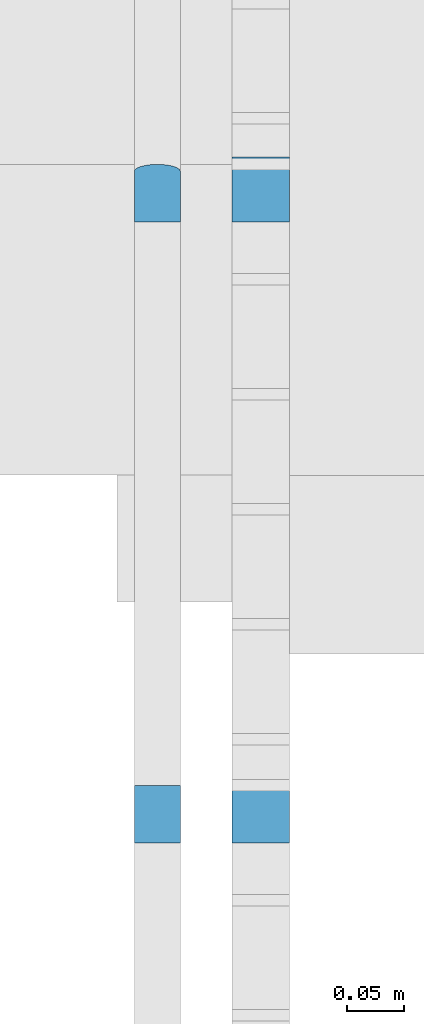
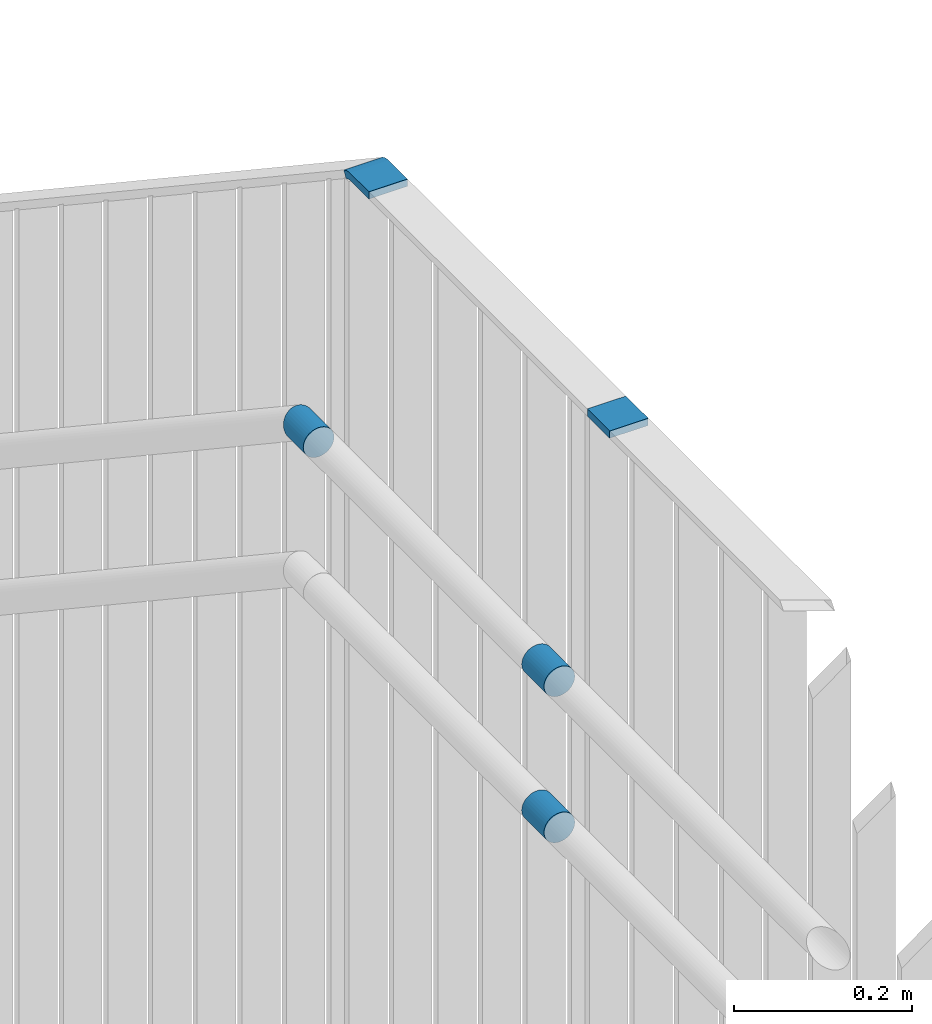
# One storey, part 87 of 418: 5 members, 1 element without a shape of its own.
"""IFC2X3 building model written with IfcOpenShell, lengths in millimetres."""

from ifc_helpers import new_model, entity, si_unit, converted_unit, derived_unit, money_unit, direction, frame, origin_with_axes, place, context, subcontext, project, spatial, faceted_brep, material, type_object, element, aggregate, save


model = new_model("IFC2X3")

# Units and contexts
model_context = context("Model", 3, precision=0.01, world=origin_with_axes(), true_north=direction((0.0, 1.0)))
body_context = subcontext(model_context, "Body", "Model", "MODEL_VIEW")
ifc_project = project(units=[si_unit("LENGTHUNIT", "METRE", prefix="MILLI"), si_unit("AREAUNIT", "SQUARE_METRE"), si_unit("VOLUMEUNIT", "CUBIC_METRE"), converted_unit("PLANEANGLEUNIT", "DEGREE", entity("IfcPlaneAngleMeasure", 0.0174532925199), si_unit("PLANEANGLEUNIT", "RADIAN"), dimensions=[0, 0, 0, 0, 0, 0, 0]), si_unit("SOLIDANGLEUNIT", "STERADIAN"), money_unit("EUR"), converted_unit("TIMEUNIT", "Year", entity("IfcTimeMeasure", 31556926.0), si_unit("TIMEUNIT", "SECOND"), dimensions=[0, 0, 1, 0, 0, 0, 0]), si_unit("MASSUNIT", "GRAM", prefix="KILO"), si_unit("THERMODYNAMICTEMPERATUREUNIT", "DEGREE_CELSIUS"), si_unit("LUMINOUSINTENSITYUNIT", "LUMEN"), si_unit("ENERGYUNIT", "JOULE", prefix="MEGA"), derived_unit("THERMALCONDUCTANCEUNIT", [(si_unit("POWERUNIT", "WATT"), 1), (si_unit("LENGTHUNIT", "METRE"), -1), (si_unit("THERMODYNAMICTEMPERATUREUNIT", "KELVIN"), -1)]), derived_unit("SPECIFICHEATCAPACITYUNIT", [(si_unit("ENERGYUNIT", "JOULE"), 1), (si_unit("MASSUNIT", "GRAM", prefix="KILO"), -1), (si_unit("THERMODYNAMICTEMPERATUREUNIT", "KELVIN"), -1)]), derived_unit("MASSDENSITYUNIT", [(si_unit("MASSUNIT", "GRAM", prefix="KILO"), 1), (si_unit("VOLUMEUNIT", "CUBIC_METRE"), -1)])], contexts=[model_context])

# Site, building, storey
site_placement = place(None, origin_with_axes())
site = spatial("IfcSite", under=ifc_project, at=site_placement, Name="Paldiski mnt 245/1, Tallinn, Harjumaa", CompositionType="COMPLEX")
building_placement = place(site_placement, origin_with_axes())
building = spatial("IfcBuilding", under=site, at=building_placement, Name="RKAS Hoone üldnimetus (kasutust iseloomustav) -> IFC Project Manager -> SOLIBRI", CompositionType="ELEMENT")
storey_placement = place(building_placement, origin_with_axes())
storey = spatial("IfcBuildingStorey", under=building, at=storey_placement, Name="Esimene korrus", CompositionType="ELEMENT", Elevation=0.0)

# Railing, members
railing_type = type_object("IfcRailingType", Name="Railing Type", PredefinedType="NOTDEFINED")
railing_placement = place(storey_placement, frame((-13938.0000282, 1623.82640275, -670.434782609), z_axis=(0.0, 0.0, 1.0), x_axis=(0.773149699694, 0.634223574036, 0.0)))
railing = element("IfcRailing", 1, at=railing_placement, inside=storey, type_object=railing_type, Name="Trepipiire", PredefinedType="NOTDEFINED")
ifc_material_1 = material(Name="ET-07_Teras - Roostevaba")
member_type = type_object("IfcMemberType", Name="IfcMember", PredefinedType="USERDEFINED")
member_1_placement = place(railing_placement, frame((0.0, 0.0, 0.0), z_axis=(0.0, 0.0, 1.0), x_axis=(0.773149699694, -0.634223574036, 0.0)))
member_1 = element("IfcMember", 2, at=member_1_placement, type_object=member_type, material=ifc_material_1, ObjectType="Rail", context=body_context, shape_type="Brep", body=[
    faceted_brep([(-84.6961550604, -5751.94429311, 4826.96181906), (-85.0000000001, -5751.94429311, 4830.43478261), (-85.0000000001, -5707.98762861, 4830.43478261), (-84.6961550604, -5709.0370428, 4826.96181906), (-84.6961550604, -5751.94429311, 4833.90774616), (-83.7938524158, -5751.94429311, 4823.59437974), (-82.3205080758, -5751.94429311, 4820.43478261), (-80.3208888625, -5751.94429311, 4817.57903041), (-77.8557521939, -5751.94429311, 4815.11389375), (-75.0000000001, -5751.94429311, 4813.11427453), (-71.8404028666, -5751.94429311, 4811.64093019), (-68.4729635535, -5751.94429311, 4810.73862755), (-65.0000000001, -5751.94429311, 4810.43478261), (-61.5270364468, -5751.94429311, 4810.73862755), (-58.1595971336, -5751.94429311, 4811.64093019), (-55.0000000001, -5751.94429311, 4813.11427453), (-52.1442478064, -5751.94429311, 4815.11389375), (-49.6791111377, -5751.94429311, 4817.57903041), (-47.6794919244, -5751.94429311, 4820.43478261), (-46.2061475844, -5751.94429311, 4823.59437974), (-45.3038449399, -5751.94429311, 4826.96181906), (-45.0000000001, -5751.94429311, 4830.43478261), (-45.3038449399, -5751.94429311, 4833.90774616), (-46.2061475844, -5751.94429311, 4837.27518548), (-47.6794919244, -5751.94429311, 4840.43478261), (-49.6791111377, -5751.94429311, 4843.2905348), (-52.1442478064, -5751.94429311, 4845.75567147), (-55.0000000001, -5751.94429311, 4847.75529068), (-58.1595971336, -5751.94429311, 4849.22863502), (-61.5270364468, -5751.94429311, 4850.13093767), (-65.0000000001, -5751.94429311, 4850.43478261), (-68.4729635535, -5751.94429311, 4850.13093767), (-71.8404028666, -5751.94429311, 4849.22863502), (-75.0000000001, -5751.94429311, 4847.75529068), (-77.8557521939, -5751.94429311, 4845.75567147), (-80.3208888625, -5751.94429311, 4843.2905348), (-82.3205080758, -5751.94429311, 4840.43478261), (-83.7938524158, -5751.94429311, 4837.27518548), (-84.6961550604, -5706.93821441, 4833.90774616), (-47.6794919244, -5704.96596086, 4840.43478261), (-46.2061475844, -5705.92068614, 4837.27518548), (-45.3038449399, -5706.93821441, 4833.90774616), (-45.0000000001, -5707.98762861, 4830.43478261), (-45.3038449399, -5709.0370428, 4826.96181906), (-46.2061475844, -5710.05457108, 4823.59437974), (-47.6794919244, -5711.00929636, 4820.43478261), (-49.6791111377, -5711.87220979, 4817.57903041), (-52.1442478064, -5712.61709218, 4815.11389375), (-55.0000000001, -5713.22131067, 4813.11427453), (-58.1595971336, -5713.66650638, 4811.64093019), (-61.5270364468, -5713.93915226, 4810.73862755), (-65.0000000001, -5714.0309641, 4810.43478261), (-68.4729635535, -5713.93915226, 4810.73862755), (-71.8404028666, -5713.66650638, 4811.64093019), (-75.0000000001, -5713.22131067, 4813.11427453), (-77.8557521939, -5712.61709218, 4815.11389375), (-80.3208888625, -5711.87220979, 4817.57903041), (-82.3205080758, -5711.00929636, 4820.43478261), (-83.7938524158, -5710.05457108, 4823.59437974), (-83.7938524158, -5705.92068614, 4837.27518548), (-82.3205080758, -5704.96596086, 4840.43478261), (-80.3208888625, -5704.10304743, 4843.2905348), (-77.8557521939, -5703.35816504, 4845.75567147), (-75.0000000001, -5702.75394655, 4847.75529068), (-71.8404028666, -5702.30875084, 4849.22863502), (-68.4729635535, -5702.03610496, 4850.13093767), (-65.0000000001, -5701.94429311, 4850.43478261), (-61.5270364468, -5702.03610496, 4850.13093767), (-58.1595971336, -5702.30875084, 4849.22863502), (-55.0000000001, -5702.75394655, 4847.75529068), (-52.1442478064, -5703.35816504, 4845.75567147), (-49.6791111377, -5704.10304743, 4843.2905348)], [[[0, 1, 2, 3]], [[4, 1, 0, 5, 6, 7, 8, 9, 10, 11, 12, 13, 14, 15, 16, 17, 18, 19, 20, 21, 22, 23, 24, 25, 26, 27, 28, 29, 30, 31, 32, 33, 34, 35, 36, 37]], [[1, 4, 38, 2]], [[39, 40, 41, 42, 43, 44, 45, 46, 47, 48, 49, 50, 51, 52, 53, 54, 55, 56, 57, 58, 3, 2, 38, 59, 60, 61, 62, 63, 64, 65, 66, 67, 68, 69, 70, 71]], [[5, 0, 3, 58]], [[6, 5, 58, 57]], [[7, 6, 57, 56]], [[8, 7, 56, 55]], [[9, 8, 55, 54]], [[10, 9, 54, 53]], [[11, 10, 53, 52]], [[12, 11, 52, 51]], [[13, 12, 51, 50]], [[14, 13, 50, 49]], [[15, 14, 49, 48]], [[16, 15, 48, 47]], [[17, 16, 47, 46]], [[18, 17, 46, 45]], [[19, 18, 45, 44]], [[20, 19, 44, 43]], [[21, 20, 43, 42]], [[22, 21, 42, 41]], [[23, 22, 41, 40]], [[24, 23, 40, 39]], [[25, 24, 39, 71]], [[26, 25, 71, 70]], [[27, 26, 70, 69]], [[28, 27, 69, 68]], [[29, 28, 68, 67]], [[30, 29, 67, 66]], [[31, 30, 66, 65]], [[32, 31, 65, 64]], [[33, 32, 64, 63]], [[34, 33, 63, 62]], [[35, 34, 62, 61]], [[36, 35, 61, 60]], [[37, 36, 60, 59]], [[4, 37, 59, 38]]]),
])
ifc_material_2 = material(Name="RAL7016")
member_2_placement = place(railing_placement, frame((0.0, 0.0, 0.0), z_axis=(0.0, 0.0, 1.0), x_axis=(0.773149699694, -0.634223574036, 0.0)))
member_2 = element("IfcMember", 3, at=member_2_placement, type_object=member_type, material=ifc_material_2, ObjectType="Rail", context=body_context, shape_type="Brep", body=[
    faceted_brep([(-1.22568621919e-10, -5751.94429311, 5140.43478261), (-1.22568621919e-10, -5751.94429311, 5150.43478261), (-1.22568621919e-10, -5709.49846248, 5150.43478261), (-1.22568621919e-10, -5702.26720721, 5149.36612079), (-1.22568621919e-10, -5695.65417325, 5146.25149838), (-1.22568621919e-10, -5700.57993781, 5137.51783008), (-1.22568621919e-10, -5705.19112488, 5139.68961789), (-1.22568621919e-10, -5710.23339006, 5140.43478261), (49.9999999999, -5751.94429311, 5150.43478261), (49.9999999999, -5751.94429311, 5140.43478261), (49.9999999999, -5709.49846248, 5150.43478261), (49.9999999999, -5702.26720721, 5149.36612079), (49.9999999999, -5695.65417325, 5146.25149838), (49.9999999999, -5700.57993781, 5137.51783008), (49.9999999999, -5705.19112488, 5139.68961789), (49.9999999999, -5710.23339006, 5140.43478261)], [[[0, 1, 2, 3, 4, 5, 6, 7]], [[8, 1, 0, 9]], [[1, 8, 10, 2]], [[3, 2, 10, 11]], [[4, 3, 11, 12]], [[12, 13, 5, 4]], [[13, 14, 6, 5]], [[14, 15, 7, 6]], [[9, 0, 7, 15]], [[8, 9, 15, 14, 13, 12, 11, 10]]]),
])
member_3_placement = place(railing_placement, frame((0.0, 0.0, 0.0), z_axis=(0.0, 0.0, 1.0), x_axis=(0.773149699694, -0.634223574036, 0.0)))
member_3 = element("IfcMember", 4, at=member_3_placement, type_object=member_type, material=ifc_material_1, ObjectType="Rail", context=body_context, shape_type="Brep", body=[
    faceted_brep([(-84.6961550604, -6291.94429311, 4626.96181906), (-85.0000000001, -6291.94429311, 4630.43478261), (-85.0000000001, -6241.94429311, 4630.43478261), (-84.6961550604, -6241.94429311, 4626.96181906), (-84.6961550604, -6291.94429311, 4633.90774616), (-83.7938524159, -6291.94429311, 4623.59437974), (-82.3205080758, -6291.94429311, 4620.43478261), (-80.3208888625, -6291.94429311, 4617.57903041), (-77.8557521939, -6291.94429311, 4615.11389375), (-75.0000000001, -6291.94429311, 4613.11427453), (-71.8404028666, -6291.94429311, 4611.64093019), (-68.4729635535, -6291.94429311, 4610.73862755), (-65.0000000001, -6291.94429311, 4610.43478261), (-61.5270364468, -6291.94429311, 4610.73862755), (-58.1595971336, -6291.94429311, 4611.64093019), (-55.0000000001, -6291.94429311, 4613.11427453), (-52.1442478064, -6291.94429311, 4615.11389375), (-49.6791111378, -6291.94429311, 4617.57903041), (-47.6794919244, -6291.94429311, 4620.43478261), (-46.2061475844, -6291.94429311, 4623.59437974), (-45.3038449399, -6291.94429311, 4626.96181906), (-45.0000000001, -6291.94429311, 4630.43478261), (-45.3038449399, -6291.94429311, 4633.90774616), (-46.2061475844, -6291.94429311, 4637.27518548), (-47.6794919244, -6291.94429311, 4640.43478261), (-49.6791111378, -6291.94429311, 4643.2905348), (-52.1442478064, -6291.94429311, 4645.75567147), (-55.0000000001, -6291.94429311, 4647.75529068), (-58.1595971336, -6291.94429311, 4649.22863502), (-61.5270364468, -6291.94429311, 4650.13093767), (-65.0000000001, -6291.94429311, 4650.43478261), (-68.4729635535, -6291.94429311, 4650.13093767), (-71.8404028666, -6291.94429311, 4649.22863502), (-75.0000000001, -6291.94429311, 4647.75529068), (-77.8557521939, -6291.94429311, 4645.75567147), (-80.3208888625, -6291.94429311, 4643.2905348), (-82.3205080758, -6291.94429311, 4640.43478261), (-83.7938524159, -6291.94429311, 4637.27518548), (-84.6961550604, -6241.94429311, 4633.90774616), (-47.6794919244, -6241.94429311, 4640.43478261), (-46.2061475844, -6241.94429311, 4637.27518548), (-45.3038449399, -6241.94429311, 4633.90774616), (-45.0000000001, -6241.94429311, 4630.43478261), (-45.3038449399, -6241.94429311, 4626.96181906), (-46.2061475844, -6241.94429311, 4623.59437974), (-47.6794919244, -6241.94429311, 4620.43478261), (-49.6791111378, -6241.94429311, 4617.57903041), (-52.1442478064, -6241.94429311, 4615.11389375), (-55.0000000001, -6241.94429311, 4613.11427453), (-58.1595971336, -6241.94429311, 4611.64093019), (-61.5270364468, -6241.94429311, 4610.73862755), (-65.0000000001, -6241.94429311, 4610.43478261), (-68.4729635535, -6241.94429311, 4610.73862755), (-71.8404028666, -6241.94429311, 4611.64093019), (-75.0000000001, -6241.94429311, 4613.11427453), (-77.8557521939, -6241.94429311, 4615.11389375), (-80.3208888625, -6241.94429311, 4617.57903041), (-82.3205080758, -6241.94429311, 4620.43478261), (-83.7938524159, -6241.94429311, 4623.59437974), (-83.7938524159, -6241.94429311, 4637.27518548), (-82.3205080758, -6241.94429311, 4640.43478261), (-80.3208888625, -6241.94429311, 4643.2905348), (-77.8557521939, -6241.94429311, 4645.75567147), (-75.0000000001, -6241.94429311, 4647.75529068), (-71.8404028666, -6241.94429311, 4649.22863502), (-68.4729635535, -6241.94429311, 4650.13093767), (-65.0000000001, -6241.94429311, 4650.43478261), (-61.5270364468, -6241.94429311, 4650.13093767), (-58.1595971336, -6241.94429311, 4649.22863502), (-55.0000000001, -6241.94429311, 4647.75529068), (-52.1442478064, -6241.94429311, 4645.75567147), (-49.6791111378, -6241.94429311, 4643.2905348)], [[[0, 1, 2, 3]], [[4, 1, 0, 5, 6, 7, 8, 9, 10, 11, 12, 13, 14, 15, 16, 17, 18, 19, 20, 21, 22, 23, 24, 25, 26, 27, 28, 29, 30, 31, 32, 33, 34, 35, 36, 37]], [[1, 4, 38, 2]], [[39, 40, 41, 42, 43, 44, 45, 46, 47, 48, 49, 50, 51, 52, 53, 54, 55, 56, 57, 58, 3, 2, 38, 59, 60, 61, 62, 63, 64, 65, 66, 67, 68, 69, 70, 71]], [[5, 0, 3, 58]], [[6, 5, 58, 57]], [[7, 6, 57, 56]], [[8, 7, 56, 55]], [[9, 8, 55, 54]], [[10, 9, 54, 53]], [[11, 10, 53, 52]], [[12, 11, 52, 51]], [[13, 12, 51, 50]], [[14, 13, 50, 49]], [[15, 14, 49, 48]], [[16, 15, 48, 47]], [[17, 16, 47, 46]], [[18, 17, 46, 45]], [[19, 18, 45, 44]], [[20, 19, 44, 43]], [[21, 20, 43, 42]], [[22, 21, 42, 41]], [[23, 22, 41, 40]], [[24, 23, 40, 39]], [[25, 24, 39, 71]], [[26, 25, 71, 70]], [[27, 26, 70, 69]], [[28, 27, 69, 68]], [[29, 28, 68, 67]], [[30, 29, 67, 66]], [[31, 30, 66, 65]], [[32, 31, 65, 64]], [[33, 32, 64, 63]], [[34, 33, 63, 62]], [[35, 34, 62, 61]], [[36, 35, 61, 60]], [[37, 36, 60, 59]], [[4, 37, 59, 38]]]),
])
member_4_placement = place(railing_placement, frame((0.0, 0.0, 0.0), z_axis=(0.0, 0.0, 1.0), x_axis=(0.773149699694, -0.634223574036, 0.0)))
member_4 = element("IfcMember", 5, at=member_4_placement, type_object=member_type, material=ifc_material_1, ObjectType="Rail", context=body_context, shape_type="Brep", body=[
    faceted_brep([(-84.6961550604, -6291.94429311, 4826.96181906), (-85.0000000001, -6291.94429311, 4830.43478261), (-85.0000000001, -6241.94429311, 4830.43478261), (-84.6961550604, -6241.94429311, 4826.96181906), (-84.6961550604, -6291.94429311, 4833.90774616), (-83.7938524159, -6291.94429311, 4823.59437974), (-82.3205080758, -6291.94429311, 4820.43478261), (-80.3208888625, -6291.94429311, 4817.57903041), (-77.8557521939, -6291.94429311, 4815.11389375), (-75.0000000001, -6291.94429311, 4813.11427453), (-71.8404028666, -6291.94429311, 4811.64093019), (-68.4729635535, -6291.94429311, 4810.73862755), (-65.0000000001, -6291.94429311, 4810.43478261), (-61.5270364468, -6291.94429311, 4810.73862755), (-58.1595971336, -6291.94429311, 4811.64093019), (-55.0000000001, -6291.94429311, 4813.11427453), (-52.1442478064, -6291.94429311, 4815.11389375), (-49.6791111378, -6291.94429311, 4817.57903041), (-47.6794919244, -6291.94429311, 4820.43478261), (-46.2061475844, -6291.94429311, 4823.59437974), (-45.3038449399, -6291.94429311, 4826.96181906), (-45.0000000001, -6291.94429311, 4830.43478261), (-45.3038449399, -6291.94429311, 4833.90774616), (-46.2061475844, -6291.94429311, 4837.27518548), (-47.6794919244, -6291.94429311, 4840.43478261), (-49.6791111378, -6291.94429311, 4843.2905348), (-52.1442478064, -6291.94429311, 4845.75567147), (-55.0000000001, -6291.94429311, 4847.75529068), (-58.1595971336, -6291.94429311, 4849.22863502), (-61.5270364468, -6291.94429311, 4850.13093767), (-65.0000000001, -6291.94429311, 4850.43478261), (-68.4729635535, -6291.94429311, 4850.13093767), (-71.8404028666, -6291.94429311, 4849.22863502), (-75.0000000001, -6291.94429311, 4847.75529068), (-77.8557521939, -6291.94429311, 4845.75567147), (-80.3208888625, -6291.94429311, 4843.2905348), (-82.3205080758, -6291.94429311, 4840.43478261), (-83.7938524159, -6291.94429311, 4837.27518548), (-84.6961550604, -6241.94429311, 4833.90774616), (-47.6794919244, -6241.94429311, 4840.43478261), (-46.2061475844, -6241.94429311, 4837.27518548), (-45.3038449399, -6241.94429311, 4833.90774616), (-45.0000000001, -6241.94429311, 4830.43478261), (-45.3038449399, -6241.94429311, 4826.96181906), (-46.2061475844, -6241.94429311, 4823.59437974), (-47.6794919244, -6241.94429311, 4820.43478261), (-49.6791111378, -6241.94429311, 4817.57903041), (-52.1442478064, -6241.94429311, 4815.11389375), (-55.0000000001, -6241.94429311, 4813.11427453), (-58.1595971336, -6241.94429311, 4811.64093019), (-61.5270364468, -6241.94429311, 4810.73862755), (-65.0000000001, -6241.94429311, 4810.43478261), (-68.4729635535, -6241.94429311, 4810.73862755), (-71.8404028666, -6241.94429311, 4811.64093019), (-75.0000000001, -6241.94429311, 4813.11427453), (-77.8557521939, -6241.94429311, 4815.11389375), (-80.3208888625, -6241.94429311, 4817.57903041), (-82.3205080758, -6241.94429311, 4820.43478261), (-83.7938524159, -6241.94429311, 4823.59437974), (-83.7938524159, -6241.94429311, 4837.27518548), (-82.3205080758, -6241.94429311, 4840.43478261), (-80.3208888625, -6241.94429311, 4843.2905348), (-77.8557521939, -6241.94429311, 4845.75567147), (-75.0000000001, -6241.94429311, 4847.75529068), (-71.8404028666, -6241.94429311, 4849.22863502), (-68.4729635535, -6241.94429311, 4850.13093767), (-65.0000000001, -6241.94429311, 4850.43478261), (-61.5270364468, -6241.94429311, 4850.13093767), (-58.1595971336, -6241.94429311, 4849.22863502), (-55.0000000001, -6241.94429311, 4847.75529068), (-52.1442478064, -6241.94429311, 4845.75567147), (-49.6791111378, -6241.94429311, 4843.2905348)], [[[0, 1, 2, 3]], [[4, 1, 0, 5, 6, 7, 8, 9, 10, 11, 12, 13, 14, 15, 16, 17, 18, 19, 20, 21, 22, 23, 24, 25, 26, 27, 28, 29, 30, 31, 32, 33, 34, 35, 36, 37]], [[1, 4, 38, 2]], [[39, 40, 41, 42, 43, 44, 45, 46, 47, 48, 49, 50, 51, 52, 53, 54, 55, 56, 57, 58, 3, 2, 38, 59, 60, 61, 62, 63, 64, 65, 66, 67, 68, 69, 70, 71]], [[5, 0, 3, 58]], [[6, 5, 58, 57]], [[7, 6, 57, 56]], [[8, 7, 56, 55]], [[9, 8, 55, 54]], [[10, 9, 54, 53]], [[11, 10, 53, 52]], [[12, 11, 52, 51]], [[13, 12, 51, 50]], [[14, 13, 50, 49]], [[15, 14, 49, 48]], [[16, 15, 48, 47]], [[17, 16, 47, 46]], [[18, 17, 46, 45]], [[19, 18, 45, 44]], [[20, 19, 44, 43]], [[21, 20, 43, 42]], [[22, 21, 42, 41]], [[23, 22, 41, 40]], [[24, 23, 40, 39]], [[25, 24, 39, 71]], [[26, 25, 71, 70]], [[27, 26, 70, 69]], [[28, 27, 69, 68]], [[29, 28, 68, 67]], [[30, 29, 67, 66]], [[31, 30, 66, 65]], [[32, 31, 65, 64]], [[33, 32, 64, 63]], [[34, 33, 63, 62]], [[35, 34, 62, 61]], [[36, 35, 61, 60]], [[37, 36, 60, 59]], [[4, 37, 59, 38]]]),
])
member_5_placement = place(railing_placement, frame((0.0, 0.0, 0.0), z_axis=(0.0, 0.0, 1.0), x_axis=(0.773149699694, -0.634223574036, 0.0)))
member_5 = element("IfcMember", 6, at=member_5_placement, type_object=member_type, material=ifc_material_2, ObjectType="Rail", context=body_context, shape_type="Brep", body=[
    faceted_brep([(-1.33226762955e-10, -6291.94429311, 5140.43478261), (-1.33226762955e-10, -6291.94429311, 5150.43478261), (-1.33226762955e-10, -6241.94429311, 5150.43478261), (-1.33226762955e-10, -6241.94429311, 5140.43478261), (49.9999999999, -6291.94429311, 5150.43478261), (49.9999999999, -6291.94429311, 5140.43478261), (49.9999999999, -6241.94429311, 5150.43478261), (49.9999999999, -6241.94429311, 5140.43478261)], [[[0, 1, 2, 3]], [[4, 1, 0, 5]], [[1, 4, 6, 2]], [[6, 7, 3, 2]], [[5, 0, 3, 7]], [[4, 5, 7, 6]]]),
])
aggregate(railing, [member_1, member_2, member_3, member_4, member_5])

save(model, "model.ifc")
